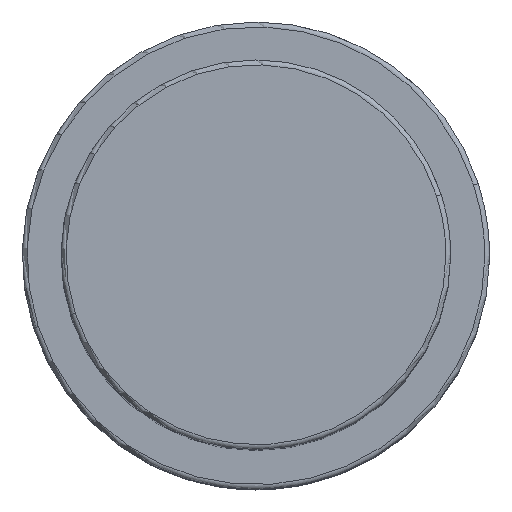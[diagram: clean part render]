
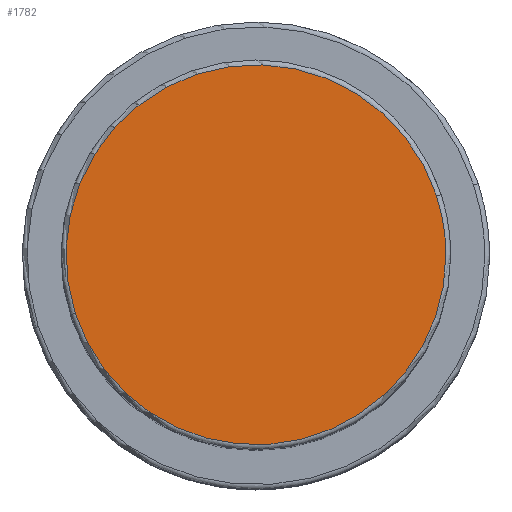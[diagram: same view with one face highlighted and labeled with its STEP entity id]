
A CAD part, top view. The second image highlights one B-rep face of the part: STEP entity #1782.
In plain terms, the highlighted planar face has unit normal (0, 0, 1).
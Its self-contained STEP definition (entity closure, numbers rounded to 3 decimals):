
#1748=CARTESIAN_POINT('',(19.5,0.0,73.5));
#1749=VERTEX_POINT('',#1748);
#1750=CARTESIAN_POINT('',(18.546,6.026,73.5));
#1751=VERTEX_POINT('',#1750);
#1752=CARTESIAN_POINT('',(0.0,0.0,73.5));
#1753=DIRECTION('',(0.0,0.0,1.0));
#1754=DIRECTION('',(1.0,0.0,0.0));
#1755=AXIS2_PLACEMENT_3D('',#1752,#1753,#1754);
#1756=CIRCLE('',#1755,19.5);
#1757=EDGE_CURVE('no 1910',#1749,#1751,#1756,.T.);
#1758=ORIENTED_EDGE('',*,*,#1757,.T.);
#1759=CARTESIAN_POINT('',(-18.546,-6.026,73.5));
#1760=VERTEX_POINT('',#1759);
#1761=CARTESIAN_POINT('',(0.0,0.0,73.5));
#1762=DIRECTION('',(0.0,0.0,1.0));
#1763=DIRECTION('',(1.0,0.0,0.0));
#1764=AXIS2_PLACEMENT_3D('',#1761,#1762,#1763);
#1765=CIRCLE('',#1764,19.5);
#1766=EDGE_CURVE('no 1916',#1751,#1760,#1765,.T.);
#1767=ORIENTED_EDGE('',*,*,#1766,.T.);
#1768=CARTESIAN_POINT('',(0.0,0.0,73.5));
#1769=DIRECTION('',(0.0,0.0,1.0));
#1770=DIRECTION('',(1.0,0.0,0.0));
#1771=AXIS2_PLACEMENT_3D('',#1768,#1769,#1770);
#1772=CIRCLE('',#1771,19.5);
#1773=EDGE_CURVE('no 1920',#1760,#1749,#1772,.T.);
#1774=ORIENTED_EDGE('',*,*,#1773,.T.);
#1775=EDGE_LOOP('',(#1758,#1767,#1774));
#1776=FACE_OUTER_BOUND('',#1775,.T.);
#1777=CARTESIAN_POINT('',(0.0,0.0,73.5));
#1778=DIRECTION('',(0.0,0.0,1.0));
#1779=DIRECTION('',(1.0,0.0,0.0));
#1780=AXIS2_PLACEMENT_3D('',#1777,#1778,#1779);
#1781=PLANE('',#1780);
#1782=ADVANCED_FACE('no 1901',(#1776),#1781,.T.);
